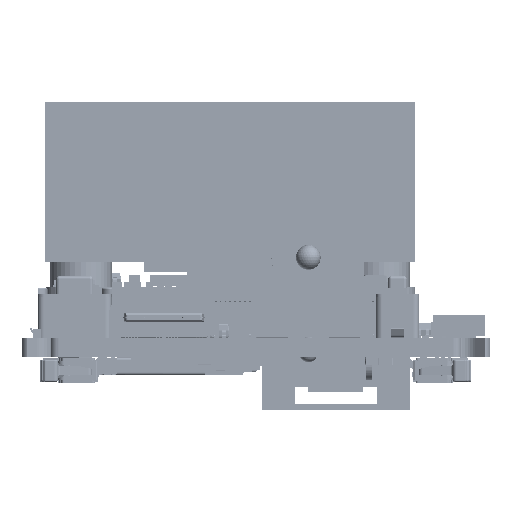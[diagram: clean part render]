
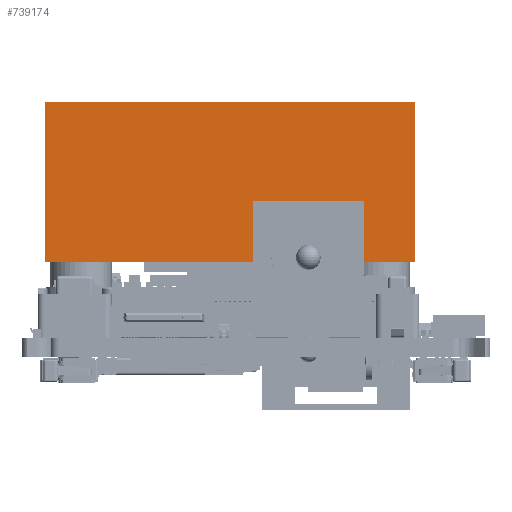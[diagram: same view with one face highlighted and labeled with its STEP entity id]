
A CAD part, left-side view. The second image highlights one B-rep face of the part: STEP entity #739174.
In plain terms, the highlighted planar face has unit normal (-1, 0, 0).
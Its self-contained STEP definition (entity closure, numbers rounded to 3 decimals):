
#23708 = ORIENTED_EDGE ( 'NONE', *, *, #501273, .T. ) ;
#30810 = ORIENTED_EDGE ( 'NONE', *, *, #720128, .T. ) ;
#51769 = LINE ( 'NONE', #731904, #184615 ) ;
#60541 = ORIENTED_EDGE ( 'NONE', *, *, #245204, .F. ) ;
#61564 = CARTESIAN_POINT ( 'NONE',  ( 19.96, 6.125, 6.1 ) ) ;
#65093 = AXIS2_PLACEMENT_3D ( 'NONE', #262552, #753390, #528454 ) ;
#99761 = CARTESIAN_POINT ( 'NONE',  ( 19.96, 6.125, 19.1 ) ) ;
#184615 = VECTOR ( 'NONE', #186830, 1000. ) ;
#186830 = DIRECTION ( 'NONE',  ( 0., 0., 1. ) ) ;
#207960 = VERTEX_POINT ( 'NONE', #99761 ) ;
#245204 = EDGE_CURVE ( 'NONE', #463576, #591501, #682678, .T. ) ;
#262552 = CARTESIAN_POINT ( 'NONE',  ( 19.96, 21.125, 12.6 ) ) ;
#289659 = DIRECTION ( 'NONE',  ( 0., 0., 1. ) ) ;
#323069 = ORIENTED_EDGE ( 'NONE', *, *, #599262, .F. ) ;
#348874 = CARTESIAN_POINT ( 'NONE',  ( 19.96, 36.125, 6.1 ) ) ;
#407890 = CARTESIAN_POINT ( 'NONE',  ( 19.96, 6.125, 6.1 ) ) ;
#458120 = LINE ( 'NONE', #61564, #736476 ) ;
#459972 = CARTESIAN_POINT ( 'NONE',  ( 19.96, 36.125, 19.1 ) ) ;
#463576 = VERTEX_POINT ( 'NONE', #886854 ) ;
#478587 = FACE_OUTER_BOUND ( 'NONE', #759080, .T. ) ;
#501273 = EDGE_CURVE ( 'NONE', #207960, #741380, #871317, .T. ) ;
#511233 = DIRECTION ( 'NONE',  ( 0., 1., 0. ) ) ;
#528454 = DIRECTION ( 'NONE',  ( 0., 1., 0. ) ) ;
#591501 = VERTEX_POINT ( 'NONE', #348874 ) ;
#599262 = EDGE_CURVE ( 'NONE', #591501, #741380, #51769, .T. ) ;
#600525 = PLANE ( 'NONE',  #65093 ) ;
#664956 = DIRECTION ( 'NONE',  ( 0., 1., 0. ) ) ;
#682678 = LINE ( 'NONE', #407890, #730470 ) ;
#720128 = EDGE_CURVE ( 'NONE', #463576, #207960, #458120, .T. ) ;
#722883 = CARTESIAN_POINT ( 'NONE',  ( 19.96, 6.125, 19.1 ) ) ;
#730470 = VECTOR ( 'NONE', #664956, 1000. ) ;
#731904 = CARTESIAN_POINT ( 'NONE',  ( 19.96, 36.125, 6.1 ) ) ;
#736476 = VECTOR ( 'NONE', #289659, 1000. ) ;
#739174 = ADVANCED_FACE ( 'NONE', ( #478587 ), #600525, .T. ) ;
#741380 = VERTEX_POINT ( 'NONE', #459972 ) ;
#753390 = DIRECTION ( 'NONE',  ( -1., 0., 0. ) ) ;
#759080 = EDGE_LOOP ( 'NONE', ( #60541, #30810, #23708, #323069 ) ) ;
#871317 = LINE ( 'NONE', #722883, #878413 ) ;
#878413 = VECTOR ( 'NONE', #511233, 1000. ) ;
#886854 = CARTESIAN_POINT ( 'NONE',  ( 19.96, 6.125, 6.1 ) ) ;
